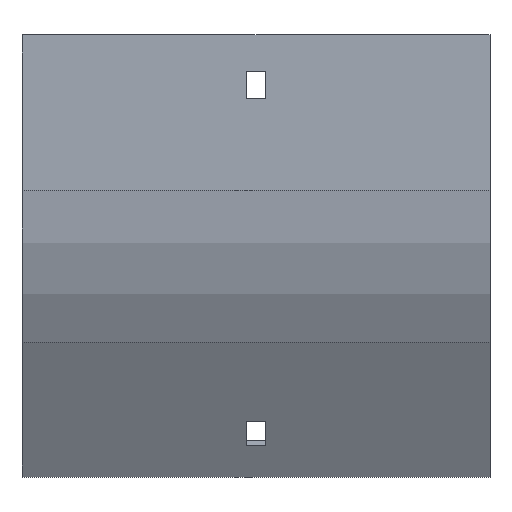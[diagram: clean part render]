
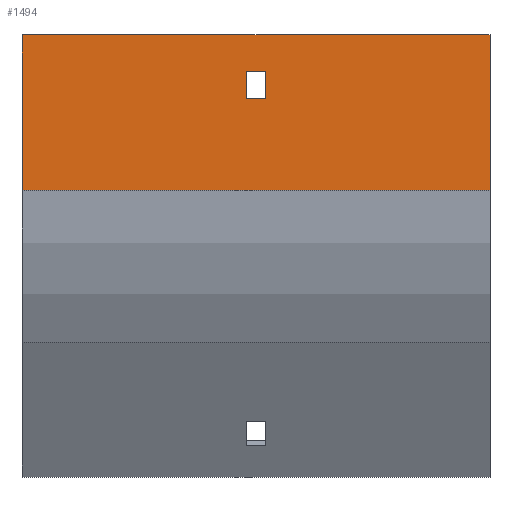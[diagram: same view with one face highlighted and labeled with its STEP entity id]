
A CAD part, front view. The second image highlights one B-rep face of the part: STEP entity #1494.
In plain terms, the highlighted planar face has unit normal (0, -1, 0).
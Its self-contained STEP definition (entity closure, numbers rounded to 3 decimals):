
#51 = CARTESIAN_POINT ( 'NONE',  ( 77., -79., 0. ) ) ;
#55 = EDGE_LOOP ( 'NONE', ( #735, #741, #286, #343 ) ) ;
#78 = VERTEX_POINT ( 'NONE', #1377 ) ;
#79 = CARTESIAN_POINT ( 'NONE',  ( -77., -79., -51.168 ) ) ;
#83 = DIRECTION ( 'NONE',  ( -1., 0., 0. ) ) ;
#86 = LINE ( 'NONE', #1158, #1565 ) ;
#132 = CARTESIAN_POINT ( 'NONE',  ( 77., -79., -51.168 ) ) ;
#133 = VECTOR ( 'NONE', #199, 1000. ) ;
#137 = VERTEX_POINT ( 'NONE', #518 ) ;
#140 = LINE ( 'NONE', #1497, #889 ) ;
#199 = DIRECTION ( 'NONE',  ( 1., 0., 0. ) ) ;
#211 = CARTESIAN_POINT ( 'NONE',  ( -3.25, -79., -21. ) ) ;
#224 = LINE ( 'NONE', #79, #1761 ) ;
#257 = EDGE_CURVE ( 'NONE', #1504, #1038, #140, .T. ) ;
#286 = ORIENTED_EDGE ( 'NONE', *, *, #1237, .F. ) ;
#290 = VECTOR ( 'NONE', #1128, 1000. ) ;
#343 = ORIENTED_EDGE ( 'NONE', *, *, #783, .T. ) ;
#371 = PLANE ( 'NONE',  #815 ) ;
#390 = ORIENTED_EDGE ( 'NONE', *, *, #1294, .T. ) ;
#429 = DIRECTION ( 'NONE',  ( 0., 0., 1. ) ) ;
#467 = EDGE_CURVE ( 'NONE', #1038, #1940, #1696, .T. ) ;
#475 = CARTESIAN_POINT ( 'NONE',  ( 3.25, -79., -21. ) ) ;
#516 = CARTESIAN_POINT ( 'NONE',  ( -3.25, -79., -21. ) ) ;
#518 = CARTESIAN_POINT ( 'NONE',  ( -77., -79., 0. ) ) ;
#564 = EDGE_CURVE ( 'NONE', #1898, #1504, #1290, .T. ) ;
#642 = EDGE_CURVE ( 'NONE', #137, #1588, #224, .T. ) ;
#652 = DIRECTION ( 'NONE',  ( -1., 0., 0. ) ) ;
#661 = DIRECTION ( 'NONE',  ( 0., 0., -1. ) ) ;
#692 = EDGE_LOOP ( 'NONE', ( #1352, #1171, #1724, #390 ) ) ;
#727 = DIRECTION ( 'NONE',  ( 0., 0., -1. ) ) ;
#735 = ORIENTED_EDGE ( 'NONE', *, *, #642, .T. ) ;
#741 = ORIENTED_EDGE ( 'NONE', *, *, #1571, .F. ) ;
#748 = VECTOR ( 'NONE', #83, 1000. ) ;
#776 = CARTESIAN_POINT ( 'NONE',  ( 77., -79., -51.168 ) ) ;
#783 = EDGE_CURVE ( 'NONE', #78, #137, #1699, .T. ) ;
#815 = AXIS2_PLACEMENT_3D ( 'NONE', #776, #1368, #1555 ) ;
#874 = DIRECTION ( 'NONE',  ( 0., 0., -1. ) ) ;
#889 = VECTOR ( 'NONE', #429, 1000. ) ;
#968 = FACE_OUTER_BOUND ( 'NONE', #55, .T. ) ;
#1038 = VERTEX_POINT ( 'NONE', #1658 ) ;
#1128 = DIRECTION ( 'NONE',  ( -1., 0., 0. ) ) ;
#1132 = LINE ( 'NONE', #1874, #748 ) ;
#1158 = CARTESIAN_POINT ( 'NONE',  ( 77., -79., -51.168 ) ) ;
#1171 = ORIENTED_EDGE ( 'NONE', *, *, #257, .T. ) ;
#1237 = EDGE_CURVE ( 'NONE', #78, #1800, #86, .T. ) ;
#1290 = LINE ( 'NONE', #516, #290 ) ;
#1294 = EDGE_CURVE ( 'NONE', #1940, #1898, #1576, .T. ) ;
#1352 = ORIENTED_EDGE ( 'NONE', *, *, #564, .T. ) ;
#1368 = DIRECTION ( 'NONE',  ( 0., 1., 0. ) ) ;
#1377 = CARTESIAN_POINT ( 'NONE',  ( 77., -79., 0. ) ) ;
#1460 = CARTESIAN_POINT ( 'NONE',  ( -77., -79., -51.168 ) ) ;
#1494 = ADVANCED_FACE ( 'NONE', ( #1708, #968 ), #371, .F. ) ;
#1497 = CARTESIAN_POINT ( 'NONE',  ( -3.25, -79., -21. ) ) ;
#1504 = VERTEX_POINT ( 'NONE', #211 ) ;
#1543 = CARTESIAN_POINT ( 'NONE',  ( -3.25, -79., -12. ) ) ;
#1555 = DIRECTION ( 'NONE',  ( 0., 0., 1. ) ) ;
#1565 = VECTOR ( 'NONE', #874, 1000. ) ;
#1571 = EDGE_CURVE ( 'NONE', #1800, #1588, #1132, .T. ) ;
#1576 = LINE ( 'NONE', #1743, #1628 ) ;
#1588 = VERTEX_POINT ( 'NONE', #1460 ) ;
#1628 = VECTOR ( 'NONE', #727, 1000. ) ;
#1639 = VECTOR ( 'NONE', #652, 1000. ) ;
#1658 = CARTESIAN_POINT ( 'NONE',  ( -3.25, -79., -12. ) ) ;
#1672 = CARTESIAN_POINT ( 'NONE',  ( 3.25, -79., -12. ) ) ;
#1696 = LINE ( 'NONE', #1543, #133 ) ;
#1699 = LINE ( 'NONE', #51, #1639 ) ;
#1708 = FACE_BOUND ( 'NONE', #692, .T. ) ;
#1724 = ORIENTED_EDGE ( 'NONE', *, *, #467, .T. ) ;
#1743 = CARTESIAN_POINT ( 'NONE',  ( 3.25, -79., -21. ) ) ;
#1761 = VECTOR ( 'NONE', #661, 1000. ) ;
#1800 = VERTEX_POINT ( 'NONE', #132 ) ;
#1874 = CARTESIAN_POINT ( 'NONE',  ( 77., -79., -51.168 ) ) ;
#1898 = VERTEX_POINT ( 'NONE', #475 ) ;
#1940 = VERTEX_POINT ( 'NONE', #1672 ) ;
